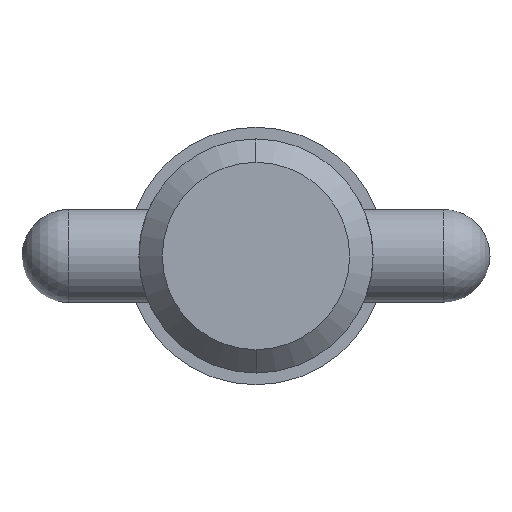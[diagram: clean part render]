
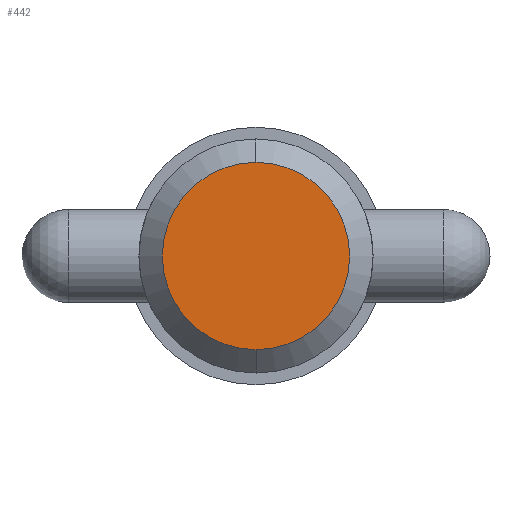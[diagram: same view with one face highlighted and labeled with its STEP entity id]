
A CAD part, left-side view. The second image highlights one B-rep face of the part: STEP entity #442.
In plain terms, the highlighted planar face has unit normal (-1, 0, 0).
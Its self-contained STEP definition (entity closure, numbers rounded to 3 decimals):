
#2 = CARTESIAN_POINT ( 'NONE',  ( 0., 0., 0. ) ) ;
#225 = ORIENTED_EDGE ( 'NONE', *, *, #233, .F. ) ;
#233 = EDGE_CURVE ( 'NONE', #561, #727, #329, .T. ) ;
#260 = CARTESIAN_POINT ( 'NONE',  ( 0., 0., 0. ) ) ;
#268 = DIRECTION ( 'NONE',  ( 0., 0., -1. ) ) ;
#274 = CARTESIAN_POINT ( 'NONE',  ( 0., 0., -6.352 ) ) ;
#295 = CIRCLE ( 'NONE', #894, 6.352 ) ;
#329 = CIRCLE ( 'NONE', #417, 6.352 ) ;
#417 = AXIS2_PLACEMENT_3D ( 'NONE', #874, #809, #557 ) ;
#422 = DIRECTION ( 'NONE',  ( 0., 0., 1. ) ) ;
#442 = ADVANCED_FACE ( 'NONE', ( #500 ), #743, .T. ) ;
#500 = FACE_OUTER_BOUND ( 'NONE', #1022, .T. ) ;
#557 = DIRECTION ( 'NONE',  ( 0., 0., -1. ) ) ;
#561 = VERTEX_POINT ( 'NONE', #274 ) ;
#727 = VERTEX_POINT ( 'NONE', #1050 ) ;
#743 = PLANE ( 'NONE',  #911 ) ;
#809 = DIRECTION ( 'NONE',  ( 1., 0., 0. ) ) ;
#837 = EDGE_CURVE ( 'NONE', #727, #561, #295, .T. ) ;
#874 = CARTESIAN_POINT ( 'NONE',  ( 0., 0., 0. ) ) ;
#894 = AXIS2_PLACEMENT_3D ( 'NONE', #260, #1000, #268 ) ;
#903 = DIRECTION ( 'NONE',  ( -1., 0., 0. ) ) ;
#911 = AXIS2_PLACEMENT_3D ( 'NONE', #2, #903, #422 ) ;
#991 = ORIENTED_EDGE ( 'NONE', *, *, #837, .F. ) ;
#1000 = DIRECTION ( 'NONE',  ( 1., 0., 0. ) ) ;
#1022 = EDGE_LOOP ( 'NONE', ( #225, #991 ) ) ;
#1050 = CARTESIAN_POINT ( 'NONE',  ( 0., 0., 6.352 ) ) ;
